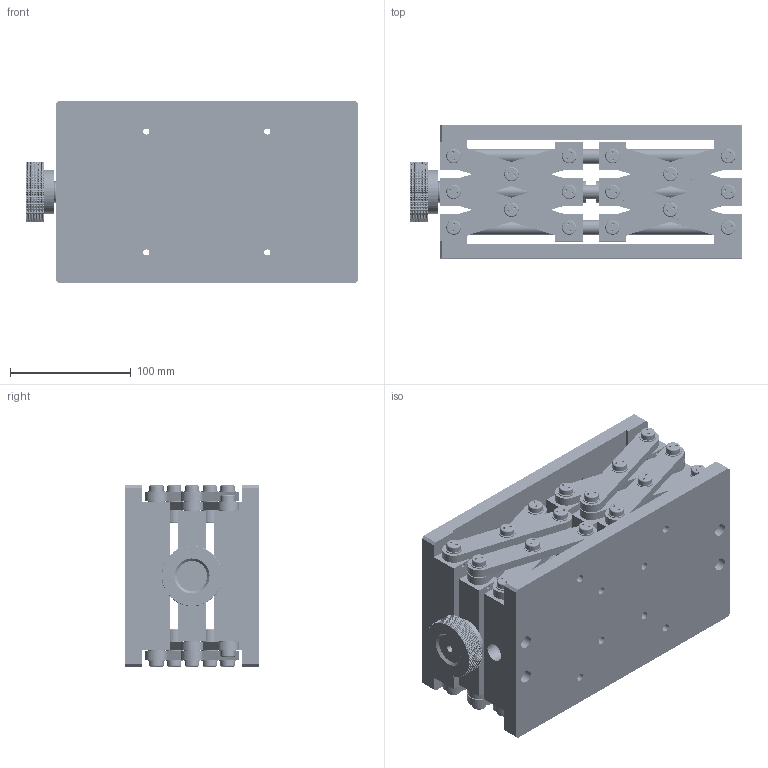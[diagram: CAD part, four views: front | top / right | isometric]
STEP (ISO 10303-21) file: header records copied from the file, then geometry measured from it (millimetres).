
FILE_DESCRIPTION (( 'STEP AP203' ), '1' );
FILE_NAME ('BLJZ1525.STEP', '2024-07-15T12:53:25', ( 'Windows User' ), ( 'P R C' ), 'SwSTEP 2.0', 'SolidWorks 2024', '' );
FILE_SCHEMA (( 'CONFIG_CONTROL_DESIGN' ));
Products named in the file (1): BLJZ1525
Bounding box: 274.5 x 110 x 150 mm (x, y, z)
Volume: 2015851.3 mm3; surface area: 596144.1 mm2
Topology: 164 solids, 164 shells, 6487 faces, 18020 edges, 11953 vertices
Faces by surface type: cylinder 3058, cone 2601, plane 776, torus 52
Full cylindrical faces by diameter (mm): 2 x64, 3.3 x33, 4.2 x1, 5 x108, 6 x34, 6.6 x16, 7 x1, 8 x197, 9 x1, 10 x4, 11 x16, 12 x62, 13 x1, 14 x88, 16 x13, 17.5 x3, 18 x2, 26 x1, 36 x1
Entity records: 215599 total; most frequent: CARTESIAN_POINT 56625, ORIENTED_EDGE 34008, DIRECTION 31196, EDGE_CURVE 17004, AXIS2_PLACEMENT_3D 12803, VERTEX_POINT 11806, EDGE_LOOP 8098, FACE_OUTER_BOUND 7185
